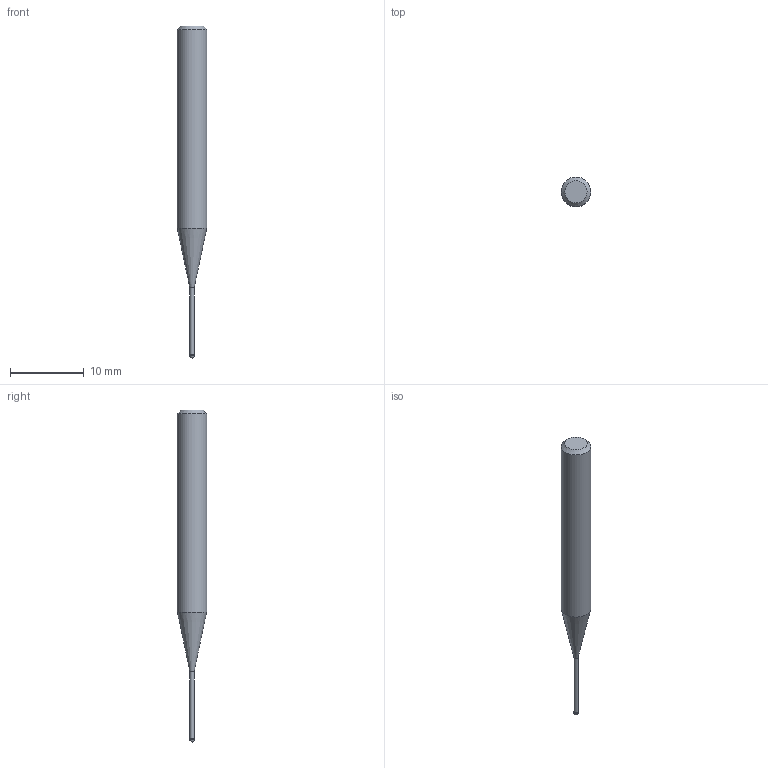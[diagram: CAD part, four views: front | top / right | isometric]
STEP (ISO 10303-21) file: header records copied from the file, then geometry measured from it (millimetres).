
FILE_DESCRIPTION((''),'2;1');
FILE_NAME('C:\Users\nsx150\AppData\Local\Temp\Mastercam 2021\3SYKECWX22\TEMP.step','2021-04-22T10:01:13',(''),(''),'STEP Write','Mastercam 2021 ... CNC Software, Inc.','');
FILE_SCHEMA(('AUTOMOTIVE_DESIGN'));
Length unit declared in the file: millimetre
Products named in the file (1): None
Bounding box: 4 x 4 x 45 mm (x, y, z)
Volume: 384.6 mm3; surface area: 429.5 mm2
Topology: 2 solids, 2 shells, 9 faces, 14 edges, 8 vertices
Faces by surface type: plane 3, cylinder 3, cone 2, sphere 1
Full cylindrical faces by diameter (mm): 0.56 x1, 0.6 x1, 4 x1
Entity records: 211 total; most frequent: DIRECTION 36, CARTESIAN_POINT 25, AXIS2_PLACEMENT_3D 18, ORIENTED_EDGE 14, EDGE_LOOP 14, STYLED_ITEM 12, ADVANCED_FACE 9, FACE_BOUND 8
